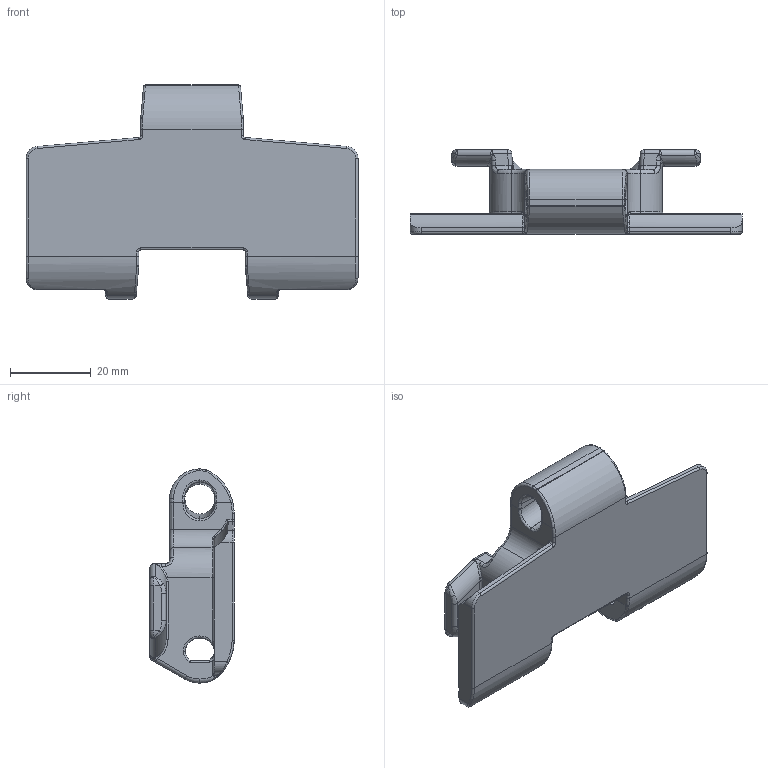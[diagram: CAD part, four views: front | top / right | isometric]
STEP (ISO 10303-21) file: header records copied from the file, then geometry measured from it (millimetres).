
FILE_DESCRIPTION((''),'2;1');
FILE_NAME('P029','2016-06-21T',('jas'),(''),'CREO PARAMETRIC BY PTC INC, 2016050','CREO PARAMETRIC BY PTC INC, 2016050','');
FILE_SCHEMA(('AUTOMOTIVE_DESIGN { 1 0 10303 214 1 1 1 1 }'));
Products named in the file (1): P029
Bounding box: 82.3 x 20.88 x 53.1 mm (x, y, z)
Volume: 23608.9 mm3; surface area: 11485 mm2
Topology: 1 solids, 1 shells, 1060 faces, 2816 edges, 1788 vertices
Faces by surface type: plane 720, cylinder 146, bspline 112, torus 48, sphere 28, cone 6
Entity records: 49999 total; most frequent: CARTESIAN_POINT 15552, ORIENTED_EDGE 5632, DIRECTION 4790, PRESENTATION_STYLE_ASSIGNMENT 2817, STYLED_ITEM 2817, CURVE_STYLE 2816, EDGE_CURVE 2816, VECTOR 2158
